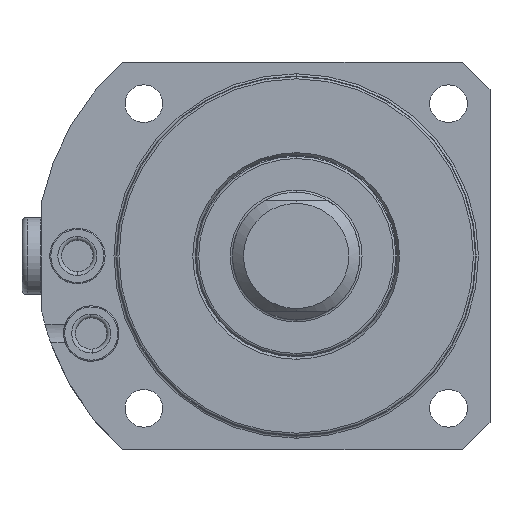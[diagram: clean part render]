
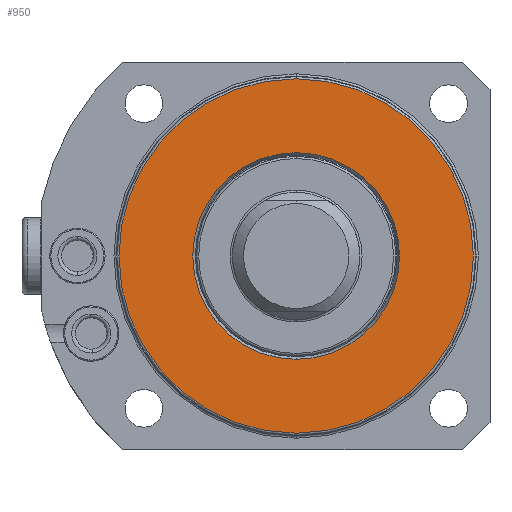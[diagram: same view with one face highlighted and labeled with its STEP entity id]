
A CAD part, front view. The second image highlights one B-rep face of the part: STEP entity #950.
In plain terms, the highlighted planar face has unit normal (0, -1, 0).
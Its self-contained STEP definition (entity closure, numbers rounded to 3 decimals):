
#364=PLANE('',#3934);
#437=FACE_BOUND('',#1452,.T.);
#438=FACE_BOUND('',#1453,.T.);
#950=ADVANCED_FACE('',(#437,#438),#364,.T.);
#1452=EDGE_LOOP('',(#1948,#1949));
#1453=EDGE_LOOP('',(#1950,#1951));
#1948=ORIENTED_EDGE('',*,*,#3091,.T.);
#1949=ORIENTED_EDGE('',*,*,#3182,.T.);
#1950=ORIENTED_EDGE('',*,*,#3181,.F.);
#1951=ORIENTED_EDGE('',*,*,#3095,.F.);
#2758=VERTEX_POINT('',#5920);
#2759=VERTEX_POINT('',#5922);
#2762=VERTEX_POINT('',#5929);
#2763=VERTEX_POINT('',#5931);
#3091=EDGE_CURVE('',#2759,#2758,#3538,.T.);
#3095=EDGE_CURVE('',#2762,#2763,#3541,.T.);
#3181=EDGE_CURVE('',#2763,#2762,#3577,.T.);
#3182=EDGE_CURVE('',#2758,#2759,#3578,.T.);
#3538=CIRCLE('',#3869,32.);
#3541=CIRCLE('',#3873,18.662);
#3577=CIRCLE('',#3931,18.662);
#3578=CIRCLE('',#3933,32.);
#3869=AXIS2_PLACEMENT_3D('',#5921,#4564,#4565);
#3873=AXIS2_PLACEMENT_3D('',#5930,#4573,#4574);
#3931=AXIS2_PLACEMENT_3D('',#6176,#4718,#4719);
#3933=AXIS2_PLACEMENT_3D('',#6178,#4722,#4723);
#3934=AXIS2_PLACEMENT_3D('',#6179,#4724,#4725);
#4564=DIRECTION('',(0.,-1.,0.));
#4565=DIRECTION('',(0.,0.,-1.));
#4573=DIRECTION('',(0.,-1.,0.));
#4574=DIRECTION('',(0.,0.,-1.));
#4718=DIRECTION('',(0.,-1.,0.));
#4719=DIRECTION('',(0.,0.,-1.));
#4722=DIRECTION('',(0.,-1.,0.));
#4723=DIRECTION('',(0.,0.,-1.));
#4724=DIRECTION('',(0.,-1.,0.));
#4725=DIRECTION('',(0.,0.,1.));
#5920=CARTESIAN_POINT('',(0.,48.5,32.));
#5921=CARTESIAN_POINT('',(0.,48.5,0.));
#5922=CARTESIAN_POINT('',(0.,48.5,-32.));
#5929=CARTESIAN_POINT('',(0.,48.5,18.662));
#5930=CARTESIAN_POINT('',(0.,48.5,0.));
#5931=CARTESIAN_POINT('',(0.,48.5,-18.662));
#6176=CARTESIAN_POINT('',(0.,48.5,0.));
#6178=CARTESIAN_POINT('',(0.,48.5,0.));
#6179=CARTESIAN_POINT('',(0.,48.5,0.));
